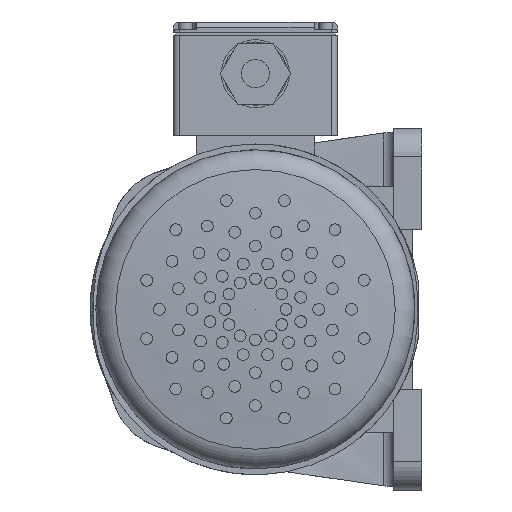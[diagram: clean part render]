
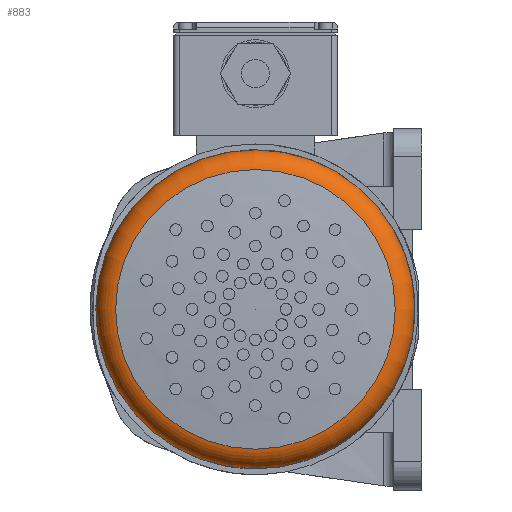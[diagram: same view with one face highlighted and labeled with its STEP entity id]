
A CAD part, left-side view. The second image highlights one B-rep face of the part: STEP entity #883.
In plain terms, the highlighted toroidal (fillet/blend) face has major radius 58.015 mm and minor radius 10 mm.
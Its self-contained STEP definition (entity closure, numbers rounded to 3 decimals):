
#883 = ADVANCED_FACE( '', ( #2323, #2324 ), #2325, .T. );
#2323 = FACE_OUTER_BOUND( '', #3944, .T. );
#2324 = FACE_OUTER_BOUND( '', #3945, .T. );
#2325 = TOROIDAL_SURFACE( '', #3946, 58.015, 10. );
#3944 = EDGE_LOOP( '', ( #8422 ) );
#3945 = EDGE_LOOP( '', ( #8423 ) );
#3946 = AXIS2_PLACEMENT_3D( '', #8424, #8425, #8426 );
#8422 = ORIENTED_EDGE( '', *, *, #10424, .T. );
#8423 = ORIENTED_EDGE( '', *, *, #10536, .F. );
#8424 = CARTESIAN_POINT( '', ( -34.454, 0., 0. ) );
#8425 = DIRECTION( '', ( 1., 0., 0. ) );
#8426 = DIRECTION( '', ( 0., 1., 0. ) );
#10424 = EDGE_CURVE( '', #12733, #12733, #12734, .T. );
#10536 = EDGE_CURVE( '', #12953, #12953, #12954, .T. );
#12733 = VERTEX_POINT( '', #19165 );
#12734 = CIRCLE( '', #19166, 59.607 );
#12953 = VERTEX_POINT( '', #21407 );
#12954 = CIRCLE( '', #21408, 68. );
#19165 = CARTESIAN_POINT( '', ( -44.327, 59.607, 0. ) );
#19166 = AXIS2_PLACEMENT_3D( '', #24146, #24147, #24148 );
#21407 = CARTESIAN_POINT( '', ( -35., 68., 0. ) );
#21408 = AXIS2_PLACEMENT_3D( '', #24380, #24381, #24382 );
#24146 = CARTESIAN_POINT( '', ( -44.327, 0., 0. ) );
#24147 = DIRECTION( '', ( 1., 0., 0. ) );
#24148 = DIRECTION( '', ( 0., 1., 0. ) );
#24380 = CARTESIAN_POINT( '', ( -35., 0., 0. ) );
#24381 = DIRECTION( '', ( 1., 0., 0. ) );
#24382 = DIRECTION( '', ( 0., 1., 0. ) );
